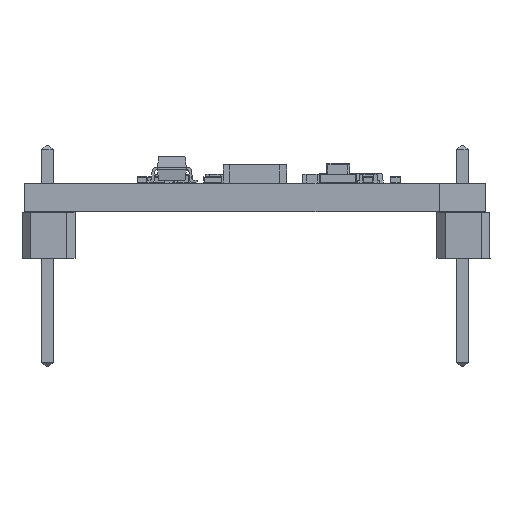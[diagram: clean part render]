
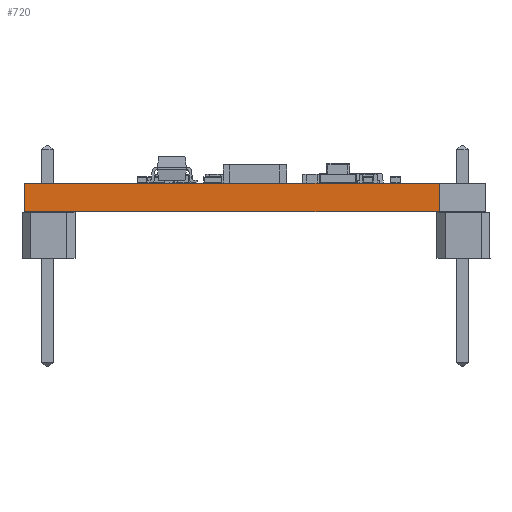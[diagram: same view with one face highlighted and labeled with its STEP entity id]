
A CAD part, front view. The second image highlights one B-rep face of the part: STEP entity #720.
In plain terms, the highlighted planar face has unit normal (0, -1, 0).
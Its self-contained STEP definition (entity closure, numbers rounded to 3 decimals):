
#695 = VERTEX_POINT('',#696);
#696 = CARTESIAN_POINT('',(21.59,-3.81,0.));
#702 = EDGE_CURVE('',#703,#695,#705,.T.);
#703 = VERTEX_POINT('',#704);
#704 = CARTESIAN_POINT('',(21.59,-3.81,-1.59));
#705 = LINE('',#706,#707);
#706 = CARTESIAN_POINT('',(21.59,-3.81,-1.59));
#707 = VECTOR('',#708,1.);
#708 = DIRECTION('',(0.,0.,1.));
#720 = ADVANCED_FACE('',(#721),#746,.T.);
#721 = FACE_BOUND('',#722,.T.);
#722 = EDGE_LOOP('',(#723,#724,#732,#740));
#723 = ORIENTED_EDGE('',*,*,#702,.T.);
#724 = ORIENTED_EDGE('',*,*,#725,.T.);
#725 = EDGE_CURVE('',#695,#726,#728,.T.);
#726 = VERTEX_POINT('',#727);
#727 = CARTESIAN_POINT('',(-1.27,-3.81,0.));
#728 = LINE('',#729,#730);
#729 = CARTESIAN_POINT('',(21.59,-3.81,0.));
#730 = VECTOR('',#731,1.);
#731 = DIRECTION('',(-1.,0.,0.));
#732 = ORIENTED_EDGE('',*,*,#733,.F.);
#733 = EDGE_CURVE('',#734,#726,#736,.T.);
#734 = VERTEX_POINT('',#735);
#735 = CARTESIAN_POINT('',(-1.27,-3.81,-1.59));
#736 = LINE('',#737,#738);
#737 = CARTESIAN_POINT('',(-1.27,-3.81,-1.59));
#738 = VECTOR('',#739,1.);
#739 = DIRECTION('',(0.,0.,1.));
#740 = ORIENTED_EDGE('',*,*,#741,.F.);
#741 = EDGE_CURVE('',#703,#734,#742,.T.);
#742 = LINE('',#743,#744);
#743 = CARTESIAN_POINT('',(21.59,-3.81,-1.59));
#744 = VECTOR('',#745,1.);
#745 = DIRECTION('',(-1.,0.,0.));
#746 = PLANE('',#747);
#747 = AXIS2_PLACEMENT_3D('',#748,#749,#750);
#748 = CARTESIAN_POINT('',(21.59,-3.81,-1.59));
#749 = DIRECTION('',(0.,-1.,0.));
#750 = DIRECTION('',(-1.,0.,0.));
